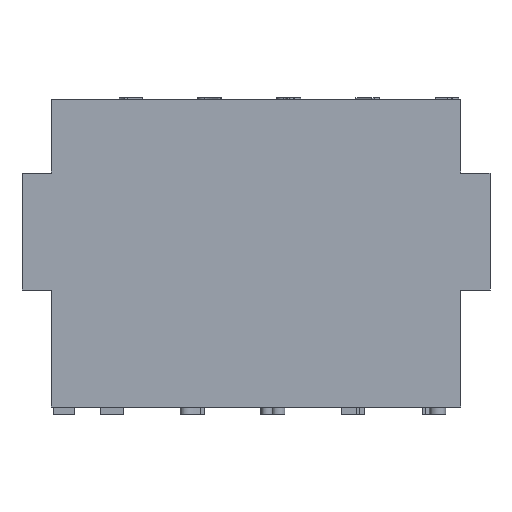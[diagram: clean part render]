
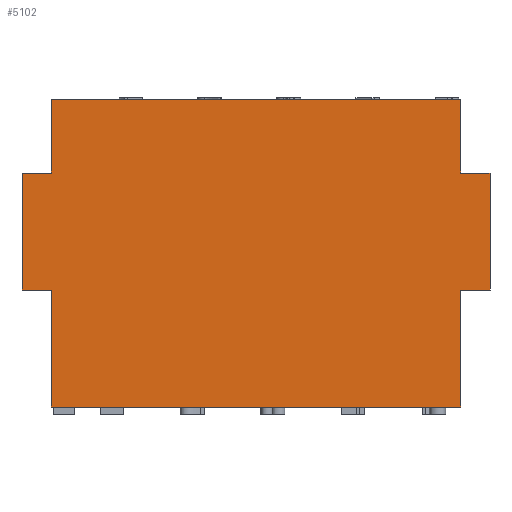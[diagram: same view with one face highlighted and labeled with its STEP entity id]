
A CAD part, front view. The second image highlights one B-rep face of the part: STEP entity #5102.
In plain terms, the highlighted planar face has unit normal (0, -1, 0).
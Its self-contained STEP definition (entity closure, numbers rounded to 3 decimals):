
#18 = ORIENTED_EDGE ( 'NONE', *, *, #11010, .T. ) ;
#61 = DIRECTION ( 'NONE',  ( 0., 0., 1. ) ) ;
#67 = EDGE_CURVE ( 'NONE', #5390, #9810, #10594, .T. ) ;
#195 = PLANE ( 'NONE',  #9746 ) ;
#382 = EDGE_LOOP ( 'NONE', ( #960, #6267, #6116, #2297, #7256, #1391, #18, #1365, #3839, #8181, #10575, #903 ) ) ;
#407 = VERTEX_POINT ( 'NONE', #4986 ) ;
#414 = LINE ( 'NONE', #8012, #4177 ) ;
#553 = CARTESIAN_POINT ( 'NONE',  ( -16., -3., 6.869 ) ) ;
#824 = DIRECTION ( 'NONE',  ( 0., 0., 1. ) ) ;
#862 = LINE ( 'NONE', #8184, #6910 ) ;
#896 = CARTESIAN_POINT ( 'NONE',  ( -16., -3., -1.131 ) ) ;
#903 = ORIENTED_EDGE ( 'NONE', *, *, #4408, .F. ) ;
#960 = ORIENTED_EDGE ( 'NONE', *, *, #4771, .F. ) ;
#1019 = EDGE_CURVE ( 'NONE', #5106, #9142, #6162, .T. ) ;
#1068 = CARTESIAN_POINT ( 'NONE',  ( 14., -3., -9.131 ) ) ;
#1238 = CARTESIAN_POINT ( 'NONE',  ( 16., -3., -1.131 ) ) ;
#1343 = CARTESIAN_POINT ( 'NONE',  ( -14., -3., 11.869 ) ) ;
#1365 = ORIENTED_EDGE ( 'NONE', *, *, #7646, .F. ) ;
#1391 = ORIENTED_EDGE ( 'NONE', *, *, #67, .T. ) ;
#1792 = EDGE_CURVE ( 'NONE', #8497, #10994, #6537, .T. ) ;
#2022 = CARTESIAN_POINT ( 'NONE',  ( -14., -3., -1.131 ) ) ;
#2297 = ORIENTED_EDGE ( 'NONE', *, *, #9581, .T. ) ;
#2686 = DIRECTION ( 'NONE',  ( 1., 0., 0. ) ) ;
#2706 = VERTEX_POINT ( 'NONE', #2022 ) ;
#2772 = VECTOR ( 'NONE', #2988, 1000. ) ;
#2809 = CARTESIAN_POINT ( 'NONE',  ( 14., -3., 6.869 ) ) ;
#2988 = DIRECTION ( 'NONE',  ( 0., 0., 1. ) ) ;
#3101 = VECTOR ( 'NONE', #9861, 1000. ) ;
#3112 = VECTOR ( 'NONE', #6127, 1000. ) ;
#3221 = DIRECTION ( 'NONE',  ( 1., 0., 0. ) ) ;
#3434 = EDGE_CURVE ( 'NONE', #407, #4184, #7162, .T. ) ;
#3456 = CARTESIAN_POINT ( 'NONE',  ( -14., -3., -1.131 ) ) ;
#3596 = CARTESIAN_POINT ( 'NONE',  ( 14., -3., -1.131 ) ) ;
#3673 = EDGE_CURVE ( 'NONE', #9987, #5106, #862, .T. ) ;
#3839 = ORIENTED_EDGE ( 'NONE', *, *, #1792, .F. ) ;
#3937 = CARTESIAN_POINT ( 'NONE',  ( 16., -3., 6.869 ) ) ;
#4088 = VECTOR ( 'NONE', #5671, 1000. ) ;
#4103 = DIRECTION ( 'NONE',  ( -1., 0., 0. ) ) ;
#4177 = VECTOR ( 'NONE', #10536, 1000. ) ;
#4184 = VERTEX_POINT ( 'NONE', #896 ) ;
#4408 = EDGE_CURVE ( 'NONE', #2706, #4184, #7698, .T. ) ;
#4771 = EDGE_CURVE ( 'NONE', #9987, #2706, #6339, .T. ) ;
#4916 = CARTESIAN_POINT ( 'NONE',  ( 14., -3., 11.869 ) ) ;
#4986 = CARTESIAN_POINT ( 'NONE',  ( -16., -3., 6.869 ) ) ;
#5102 = ADVANCED_FACE ( 'NONE', ( #5812 ), #195, .T. ) ;
#5106 = VERTEX_POINT ( 'NONE', #1068 ) ;
#5156 = DIRECTION ( 'NONE',  ( 1., 0., 0. ) ) ;
#5204 = CARTESIAN_POINT ( 'NONE',  ( -14., -3., -9.131 ) ) ;
#5312 = CARTESIAN_POINT ( 'NONE',  ( 14., -3., -1.131 ) ) ;
#5329 = EDGE_CURVE ( 'NONE', #5390, #5382, #8491, .T. ) ;
#5351 = VECTOR ( 'NONE', #3221, 1000. ) ;
#5382 = VERTEX_POINT ( 'NONE', #1238 ) ;
#5390 = VERTEX_POINT ( 'NONE', #3937 ) ;
#5452 = DIRECTION ( 'NONE',  ( 0., 0., -1. ) ) ;
#5582 = LINE ( 'NONE', #5312, #6137 ) ;
#5671 = DIRECTION ( 'NONE',  ( 0., 0., 1. ) ) ;
#5696 = VECTOR ( 'NONE', #7388, 1000. ) ;
#5697 = EDGE_CURVE ( 'NONE', #407, #8497, #414, .T. ) ;
#5753 = CARTESIAN_POINT ( 'NONE',  ( -14., -3., 11.869 ) ) ;
#5812 = FACE_OUTER_BOUND ( 'NONE', #382, .T. ) ;
#5912 = CARTESIAN_POINT ( 'NONE',  ( -14., -3., -9.131 ) ) ;
#6116 = ORIENTED_EDGE ( 'NONE', *, *, #1019, .T. ) ;
#6127 = DIRECTION ( 'NONE',  ( -1., 0., 0. ) ) ;
#6137 = VECTOR ( 'NONE', #2686, 1000. ) ;
#6162 = LINE ( 'NONE', #11103, #8299 ) ;
#6267 = ORIENTED_EDGE ( 'NONE', *, *, #3673, .T. ) ;
#6339 = LINE ( 'NONE', #5204, #11051 ) ;
#6375 = CARTESIAN_POINT ( 'NONE',  ( 16., -3., 6.869 ) ) ;
#6410 = CARTESIAN_POINT ( 'NONE',  ( -14., -3., 6.869 ) ) ;
#6537 = LINE ( 'NONE', #6410, #2772 ) ;
#6636 = CARTESIAN_POINT ( 'NONE',  ( 16., -3., 6.869 ) ) ;
#6910 = VECTOR ( 'NONE', #5156, 1000. ) ;
#7148 = CARTESIAN_POINT ( 'NONE',  ( 0., -3., 0. ) ) ;
#7162 = LINE ( 'NONE', #553, #5696 ) ;
#7256 = ORIENTED_EDGE ( 'NONE', *, *, #5329, .F. ) ;
#7388 = DIRECTION ( 'NONE',  ( 0., 0., -1. ) ) ;
#7646 = EDGE_CURVE ( 'NONE', #10994, #7815, #9759, .T. ) ;
#7698 = LINE ( 'NONE', #3456, #3112 ) ;
#7815 = VERTEX_POINT ( 'NONE', #4916 ) ;
#8012 = CARTESIAN_POINT ( 'NONE',  ( -16., -3., 6.869 ) ) ;
#8181 = ORIENTED_EDGE ( 'NONE', *, *, #5697, .F. ) ;
#8184 = CARTESIAN_POINT ( 'NONE',  ( -14., -3., -9.131 ) ) ;
#8296 = CARTESIAN_POINT ( 'NONE',  ( 14., -3., 6.869 ) ) ;
#8299 = VECTOR ( 'NONE', #824, 1000. ) ;
#8491 = LINE ( 'NONE', #6375, #3101 ) ;
#8497 = VERTEX_POINT ( 'NONE', #9955 ) ;
#8905 = LINE ( 'NONE', #8296, #4088 ) ;
#9142 = VERTEX_POINT ( 'NONE', #3596 ) ;
#9581 = EDGE_CURVE ( 'NONE', #9142, #5382, #5582, .T. ) ;
#9721 = DIRECTION ( 'NONE',  ( 0., -1., 0. ) ) ;
#9746 = AXIS2_PLACEMENT_3D ( 'NONE', #7148, #9721, #5452 ) ;
#9759 = LINE ( 'NONE', #5753, #5351 ) ;
#9810 = VERTEX_POINT ( 'NONE', #2809 ) ;
#9861 = DIRECTION ( 'NONE',  ( 0., 0., -1. ) ) ;
#9955 = CARTESIAN_POINT ( 'NONE',  ( -14., -3., 6.869 ) ) ;
#9987 = VERTEX_POINT ( 'NONE', #5912 ) ;
#10536 = DIRECTION ( 'NONE',  ( 1., 0., 0. ) ) ;
#10575 = ORIENTED_EDGE ( 'NONE', *, *, #3434, .T. ) ;
#10594 = LINE ( 'NONE', #6636, #11007 ) ;
#10994 = VERTEX_POINT ( 'NONE', #1343 ) ;
#11007 = VECTOR ( 'NONE', #4103, 1000. ) ;
#11010 = EDGE_CURVE ( 'NONE', #9810, #7815, #8905, .T. ) ;
#11051 = VECTOR ( 'NONE', #61, 1000. ) ;
#11103 = CARTESIAN_POINT ( 'NONE',  ( 14., -3., -9.131 ) ) ;
